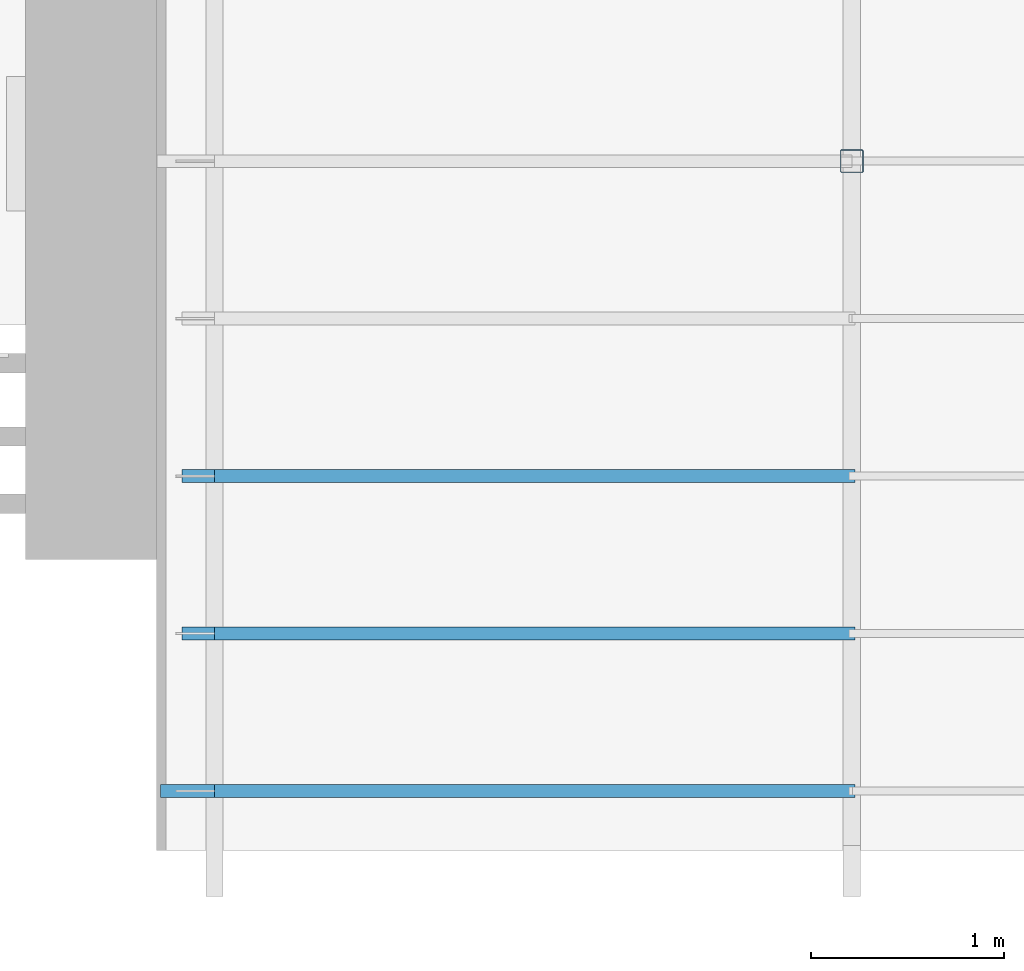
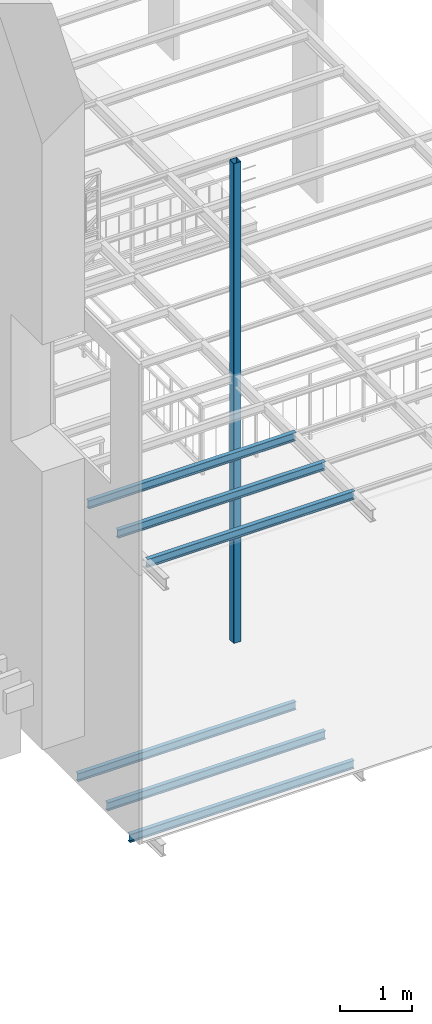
# One storey, part 1 of 33: 6 beams, 1 column.
"""IFC2X3 building model written with IfcOpenShell, lengths in metres."""

from ifc_helpers import new_model, entity, si_unit, converted_unit, derived_unit, direction, frame, frame_2d, origin, place, context, subcontext, project, spatial, polyline, circle_curve, parameter, trimmed, segment, composite_curve, outline, extrude, source, transform, mapped, material, type_object, type_shapes, element, save


model = new_model("IFC2X3")

# Units and contexts
model_context = context("Model", 3, precision=1e-05, world=origin(), true_north=direction((6.12303176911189e-17, 1.0)))
body_context = subcontext(model_context, "Body", "Model", "MODEL_VIEW")
ifc_project = project(units=[si_unit("LENGTHUNIT", "METRE"), si_unit("AREAUNIT", "SQUARE_METRE"), si_unit("VOLUMEUNIT", "CUBIC_METRE"), converted_unit("PLANEANGLEUNIT", "DEGREE", entity("IfcRatioMeasure", 0.0174532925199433), si_unit("PLANEANGLEUNIT", "RADIAN"), dimensions=[0, 0, 0, 0, 0, 0, 0]), si_unit("MASSUNIT", "GRAM", prefix="KILO"), derived_unit("MASSDENSITYUNIT", [(si_unit("MASSUNIT", "GRAM", prefix="KILO"), 1), (si_unit("LENGTHUNIT", "METRE"), -3)]), derived_unit("MOMENTOFINERTIAUNIT", [(si_unit("LENGTHUNIT", "METRE"), 4)]), si_unit("TIMEUNIT", "SECOND"), si_unit("FREQUENCYUNIT", "HERTZ"), si_unit("THERMODYNAMICTEMPERATUREUNIT", "DEGREE_CELSIUS"), derived_unit("THERMALTRANSMITTANCEUNIT", [(si_unit("MASSUNIT", "GRAM", prefix="KILO"), 1), (si_unit("THERMODYNAMICTEMPERATUREUNIT", "KELVIN"), -1), (si_unit("TIMEUNIT", "SECOND"), -3)]), derived_unit("VOLUMETRICFLOWRATEUNIT", [(si_unit("LENGTHUNIT", "METRE"), 3), (si_unit("TIMEUNIT", "SECOND"), -1)]), si_unit("ELECTRICCURRENTUNIT", "AMPERE"), si_unit("ELECTRICVOLTAGEUNIT", "VOLT"), si_unit("POWERUNIT", "WATT"), si_unit("FORCEUNIT", "NEWTON", prefix="KILO"), si_unit("ILLUMINANCEUNIT", "LUX"), si_unit("LUMINOUSFLUXUNIT", "LUMEN"), si_unit("LUMINOUSINTENSITYUNIT", "CANDELA"), derived_unit("USERDEFINED", [(si_unit("MASSUNIT", "GRAM", prefix="KILO"), -1), (si_unit("LENGTHUNIT", "METRE"), -2), (si_unit("TIMEUNIT", "SECOND"), 3), (si_unit("LUMINOUSFLUXUNIT", "LUMEN"), 1)]), derived_unit("LINEARVELOCITYUNIT", [(si_unit("LENGTHUNIT", "METRE"), 1), (si_unit("TIMEUNIT", "SECOND"), -1)]), si_unit("PRESSUREUNIT", "PASCAL"), derived_unit("USERDEFINED", [(si_unit("LENGTHUNIT", "METRE"), -2), (si_unit("MASSUNIT", "GRAM", prefix="KILO"), 1), (si_unit("TIMEUNIT", "SECOND"), -2)]), derived_unit("LINEARFORCEUNIT", [(si_unit("MASSUNIT", "GRAM", prefix="KILO"), 1), (si_unit("LENGTHUNIT", "METRE"), 1), (si_unit("TIMEUNIT", "SECOND"), -2), (si_unit("LENGTHUNIT", "METRE"), -1)]), derived_unit("PLANARFORCEUNIT", [(si_unit("MASSUNIT", "GRAM", prefix="KILO"), 1), (si_unit("LENGTHUNIT", "METRE"), 1), (si_unit("TIMEUNIT", "SECOND"), -2), (si_unit("LENGTHUNIT", "METRE"), -2)])], contexts=[model_context])

# Site, building, storey
site_placement = place(None, origin())
site = spatial("IfcSite", under=ifc_project, at=site_placement, Name="Superficie", CompositionType="ELEMENT")
building_placement = place(site_placement, origin())
building = spatial("IfcBuilding", under=site, at=building_placement, Name="Telegestiones", CompositionType="ELEMENT")
storey_placement = place(building_placement, frame((0.0, 0.0, 4.94)))
storey = spatial("IfcBuildingStorey", under=building, at=storey_placement, Name="Nivel 1_NPT", CompositionType="ELEMENT", Elevation=4.94)

# Column
ifc_material = material(Name="Metal - Acero - 345 MPa")
column_type = type_object("IfcColumnType", Name="SHS-Sección hueca cuadrada-Pilar:120 x 120SHS", PredefinedType="COLUMN", material=ifc_material)
shared_shape = source(origin(), body_context, "Body", "SweptSolid", [
    extrude(outline(composite_curve([segment(polyline([(-0.0520000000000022, -0.0599999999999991), (0.0520000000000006, -0.0599999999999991)]), True, "CONTINUOUS"), segment(trimmed(circle_curve(frame_2d((0.0520000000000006, -0.0520000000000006), x_axis=(-1.0, 0.0)), 0.00799999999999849), [parameter(90.0000000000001)], [parameter(180.0)], True, "PARAMETER"), True, "CONTINUOUS"), segment(polyline([(0.059999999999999, -0.0520000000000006), (0.059999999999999, 0.0520000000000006)]), True, "CONTINUOUS"), segment(trimmed(circle_curve(frame_2d((0.0519999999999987, 0.0520000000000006), x_axis=(-1.0, 0.0)), 0.00800000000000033), [parameter(180.0)], [parameter(270.0)], True, "PARAMETER"), True, "CONTINUOUS"), segment(polyline([(0.0519999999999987, 0.0600000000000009), (-0.0519999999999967, 0.0600000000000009)]), True, "CONTINUOUS"), segment(trimmed(circle_curve(frame_2d((-0.0519999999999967, 0.0519999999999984), x_axis=(-1.0, 0.0)), 0.0080000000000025), [parameter(270.0)], [parameter(359.999999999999)], True, "PARAMETER"), True, "CONTINUOUS"), segment(polyline([(-0.0599999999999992, 0.0519999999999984), (-0.0599999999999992, -0.0520000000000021)]), True, "CONTINUOUS"), segment(trimmed(circle_curve(frame_2d((-0.0520000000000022, -0.0520000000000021), x_axis=(-1.0, 0.0)), 0.00799999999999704), [parameter(360.0)], [parameter(89.9999999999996)], True, "PARAMETER"), True, "CONTINUOUS")], self_intersect=False), holes=[composite_curve([segment(trimmed(circle_curve(frame_2d((-0.0520000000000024, -0.0520000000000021), x_axis=(-1.0, 0.0)), 0.0039999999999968), [parameter(0.0)], [parameter(90.0000000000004)], True, "PARAMETER"), False, "CONTINUOUS"), segment(polyline([(-0.0559999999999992, -0.0520000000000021), (-0.0559999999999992, 0.0520000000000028)]), True, "CONTINUOUS"), segment(trimmed(circle_curve(frame_2d((-0.052000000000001, 0.0520000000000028), x_axis=(-1.0, 0.0)), 0.00399999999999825), [parameter(270.0)], [parameter(0.0)], True, "PARAMETER"), False, "CONTINUOUS"), segment(polyline([(-0.052000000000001, 0.056000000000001), (0.0519999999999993, 0.056000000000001)]), True, "CONTINUOUS"), segment(trimmed(circle_curve(frame_2d((0.0519999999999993, 0.0519999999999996), x_axis=(-1.0, 0.0)), 0.00400000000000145), [parameter(180.0)], [parameter(270.0)], True, "PARAMETER"), False, "CONTINUOUS"), segment(polyline([(0.0560000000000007, 0.0519999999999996), (0.0560000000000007, -0.0519999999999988)]), True, "CONTINUOUS"), segment(trimmed(circle_curve(frame_2d((0.0520000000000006, -0.0519999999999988), x_axis=(-1.0, 0.0)), 0.00400000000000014), [parameter(90.0000000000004)], [parameter(180.0)], True, "PARAMETER"), False, "CONTINUOUS"), segment(polyline([(0.0520000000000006, -0.0559999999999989), (-0.0520000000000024, -0.0559999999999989)]), True, "CONTINUOUS")], self_intersect=False)]), frame((0.0, 0.0, 4.94), z_axis=(0.0, 0.0, 1.0), x_axis=(-1.0, 0.0, 0.0)), (0.0, 0.0, 1.0), 8.13),
])
type_shapes(column_type, [shared_shape])
column_placement = place(storey_placement, frame((9.64481262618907, -2.22639277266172, -4.94)))
element("IfcColumn", 1, at=column_placement, inside=storey, type_object=column_type, material=ifc_material, Name="SHS-Sección hueca cuadrada-Pilar:120 x 120SHS", ObjectType="SHS-Sección hueca cuadrada-Pilar:120 x 120SHS", context=body_context, shape_type="MappedRepresentation", body=[
    mapped(shared_shape, transform((0.0, 0.0, 0.0), scale=1.0)),
])

# Beams
beam_type_1 = type_object("IfcBeamType", Name="IPN - Secciones en I con alas cónicas:IPN 140", PredefinedType="NOTDEFINED")
beam_1_placement = place(storey_placement, frame((6.16481262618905, -3.86189277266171, 0.0)))
element("IfcBeam", 2, at=beam_1_placement, inside=storey, type_object=beam_type_1, material=ifc_material, Name="IPN - Secciones en I con alas cónicas:IPN 140", ObjectType="IPN - Secciones en I con alas cónicas:IPN 140", context=body_context, shape_type="SweptSolid", body=[
    extrude(outline(composite_curve([segment(polyline([(0.0666671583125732, -0.0330000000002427), (0.0699999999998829, -0.0330000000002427)]), True, "CONTINUOUS"), segment(polyline([(0.0699999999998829, -0.0330000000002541), (0.0700000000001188, 0.0329999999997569)]), True, "CONTINUOUS"), segment(polyline([(0.0700000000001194, 0.032999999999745), (0.0666671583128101, 0.0329999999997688)]), True, "CONTINUOUS"), segment(trimmed(circle_curve(frame_2d((0.0666671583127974, 0.0295999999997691), x_axis=(0.0, 1.0)), 0.00339999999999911), [parameter(0.0)], [parameter(82.0303896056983)], True, "PARAMETER"), True, "CONTINUOUS"), segment(polyline([(0.0632999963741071, 0.030071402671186), (0.0601763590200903, 0.00775970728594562)]), True, "CONTINUOUS"), segment(trimmed(circle_curve(frame_2d((0.0545314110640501, 0.00854999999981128), x_axis=(0.990341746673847, -0.138647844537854)), 0.00569999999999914), [parameter(277.969610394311)], [parameter(0.0)], True, "PARAMETER"), False, "CONTINUOUS"), segment(polyline([(0.0545314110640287, 0.00284999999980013), (-0.0545314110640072, 0.00285000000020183)]), True, "CONTINUOUS"), segment(trimmed(circle_curve(frame_2d((-0.0545314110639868, 0.00855000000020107), x_axis=(0.0, -1.0)), 0.00569999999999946), [parameter(277.969610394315)], [parameter(0.0)], True, "PARAMETER"), False, "CONTINUOUS"), segment(polyline([(-0.0601763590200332, 0.00775970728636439), (-0.06329999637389, 0.0300714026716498)]), True, "CONTINUOUS"), segment(trimmed(circle_curve(frame_2d((-0.0666671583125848, 0.0296000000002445), x_axis=(0.990341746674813, 0.138647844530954)), 0.0034000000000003), [parameter(0.0)], [parameter(82.0303896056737)], True, "PARAMETER"), True, "CONTINUOUS"), segment(polyline([(-0.0666671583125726, 0.0330000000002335), (-0.0699999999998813, 0.0330000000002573)]), True, "CONTINUOUS"), segment(polyline([(-0.0699999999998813, 0.0330000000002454), (-0.0700000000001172, -0.0329999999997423)]), True, "CONTINUOUS"), segment(polyline([(-0.0700000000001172, -0.0329999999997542), (-0.0666671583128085, -0.0329999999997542)]), True, "CONTINUOUS"), segment(trimmed(circle_curve(frame_2d((-0.0666671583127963, -0.0295999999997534), x_axis=(0.0, -1.0)), 0.0034000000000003), [parameter(0.0)], [parameter(82.0303896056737)], True, "PARAMETER"), True, "CONTINUOUS"), segment(polyline([(-0.0632999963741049, -0.0300714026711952), (-0.0601763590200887, -0.00775970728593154)]), True, "CONTINUOUS"), segment(trimmed(circle_curve(frame_2d((-0.054531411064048, -0.00854999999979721), x_axis=(-0.990341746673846, 0.138647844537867)), 0.00569999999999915), [parameter(277.969610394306)], [parameter(0.0)], True, "PARAMETER"), False, "CONTINUOUS"), segment(polyline([(-0.0545314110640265, -0.00284999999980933), (0.0545314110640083, -0.00285000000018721)]), True, "CONTINUOUS"), segment(trimmed(circle_curve(frame_2d((0.0545314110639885, -0.00855000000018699), x_axis=(0.0, 1.0)), 0.00569999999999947), [parameter(277.969610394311)], [parameter(0.0)], True, "PARAMETER"), False, "CONTINUOUS"), segment(polyline([(0.0601763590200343, -0.00775970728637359), (0.0632999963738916, -0.0300714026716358)]), True, "CONTINUOUS"), segment(trimmed(circle_curve(frame_2d((0.0666671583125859, -0.0296000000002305), x_axis=(-0.990341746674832, -0.13864784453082)), 0.00339999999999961), [parameter(0.0)], [parameter(82.0303896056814)], True, "PARAMETER"), True, "CONTINUOUS")], self_intersect=False)), frame((0.0, 0.0, -0.100000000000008), z_axis=(1.0, 0.0, 0.0), x_axis=(0.0, 0.0, -1.0)), (0.0, 0.0, 1.0), 3.495),
])
beam_2_placement = place(storey_placement, frame((6.16481262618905, -4.6796427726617, 0.0)))
element("IfcBeam", 3, at=beam_2_placement, inside=storey, type_object=beam_type_1, material=ifc_material, Name="IPN - Secciones en I con alas cónicas:IPN 140", ObjectType="IPN - Secciones en I con alas cónicas:IPN 140", context=body_context, shape_type="SweptSolid", body=[
    extrude(outline(composite_curve([segment(polyline([(0.0666671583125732, -0.0330000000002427), (0.0699999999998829, -0.0330000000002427)]), True, "CONTINUOUS"), segment(polyline([(0.0699999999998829, -0.0330000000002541), (0.0700000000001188, 0.0329999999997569)]), True, "CONTINUOUS"), segment(polyline([(0.0700000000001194, 0.032999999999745), (0.0666671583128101, 0.0329999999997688)]), True, "CONTINUOUS"), segment(trimmed(circle_curve(frame_2d((0.0666671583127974, 0.0295999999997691), x_axis=(0.0, 1.0)), 0.00339999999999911), [parameter(0.0)], [parameter(82.0303896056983)], True, "PARAMETER"), True, "CONTINUOUS"), segment(polyline([(0.0632999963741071, 0.030071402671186), (0.0601763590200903, 0.00775970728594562)]), True, "CONTINUOUS"), segment(trimmed(circle_curve(frame_2d((0.0545314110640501, 0.00854999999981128), x_axis=(0.990341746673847, -0.138647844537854)), 0.00569999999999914), [parameter(277.969610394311)], [parameter(0.0)], True, "PARAMETER"), False, "CONTINUOUS"), segment(polyline([(0.0545314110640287, 0.00284999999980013), (-0.0545314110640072, 0.00285000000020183)]), True, "CONTINUOUS"), segment(trimmed(circle_curve(frame_2d((-0.0545314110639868, 0.00855000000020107), x_axis=(0.0, -1.0)), 0.00569999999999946), [parameter(277.969610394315)], [parameter(0.0)], True, "PARAMETER"), False, "CONTINUOUS"), segment(polyline([(-0.0601763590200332, 0.00775970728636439), (-0.06329999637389, 0.0300714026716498)]), True, "CONTINUOUS"), segment(trimmed(circle_curve(frame_2d((-0.0666671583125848, 0.0296000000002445), x_axis=(0.990341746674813, 0.138647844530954)), 0.0034000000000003), [parameter(0.0)], [parameter(82.0303896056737)], True, "PARAMETER"), True, "CONTINUOUS"), segment(polyline([(-0.0666671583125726, 0.0330000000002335), (-0.0699999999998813, 0.0330000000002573)]), True, "CONTINUOUS"), segment(polyline([(-0.0699999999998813, 0.0330000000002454), (-0.0700000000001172, -0.0329999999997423)]), True, "CONTINUOUS"), segment(polyline([(-0.0700000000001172, -0.0329999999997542), (-0.0666671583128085, -0.0329999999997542)]), True, "CONTINUOUS"), segment(trimmed(circle_curve(frame_2d((-0.0666671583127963, -0.0295999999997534), x_axis=(0.0, -1.0)), 0.0034000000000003), [parameter(0.0)], [parameter(82.0303896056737)], True, "PARAMETER"), True, "CONTINUOUS"), segment(polyline([(-0.0632999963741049, -0.0300714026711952), (-0.0601763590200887, -0.00775970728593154)]), True, "CONTINUOUS"), segment(trimmed(circle_curve(frame_2d((-0.054531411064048, -0.00854999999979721), x_axis=(-0.990341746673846, 0.138647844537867)), 0.00569999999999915), [parameter(277.969610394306)], [parameter(0.0)], True, "PARAMETER"), False, "CONTINUOUS"), segment(polyline([(-0.0545314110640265, -0.00284999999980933), (0.0545314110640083, -0.00285000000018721)]), True, "CONTINUOUS"), segment(trimmed(circle_curve(frame_2d((0.0545314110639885, -0.00855000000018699), x_axis=(0.0, 1.0)), 0.00569999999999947), [parameter(277.969610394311)], [parameter(0.0)], True, "PARAMETER"), False, "CONTINUOUS"), segment(polyline([(0.0601763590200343, -0.00775970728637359), (0.0632999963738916, -0.0300714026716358)]), True, "CONTINUOUS"), segment(trimmed(circle_curve(frame_2d((0.0666671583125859, -0.0296000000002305), x_axis=(-0.990341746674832, -0.13864784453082)), 0.00339999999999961), [parameter(0.0)], [parameter(82.0303896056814)], True, "PARAMETER"), True, "CONTINUOUS")], self_intersect=False)), frame((0.0, 0.0, -0.100000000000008), z_axis=(1.0, 0.0, 0.0), x_axis=(0.0, 0.0, -1.0)), (0.0, 0.0, 1.0), 3.495),
])
beam_3_placement = place(storey_placement, frame((6.33481262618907, -3.86189277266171, 4.56)))
element("IfcBeam", 4, at=beam_3_placement, inside=storey, type_object=beam_type_1, material=ifc_material, Name="IPN - Secciones en I con alas cónicas:IPN 140", ObjectType="IPN - Secciones en I con alas cónicas:IPN 140", context=body_context, shape_type="SweptSolid", body=[
    extrude(outline(composite_curve([segment(polyline([(0.066667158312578, -0.0330000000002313), (0.0699999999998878, -0.0330000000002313)]), True, "CONTINUOUS"), segment(polyline([(0.0699999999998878, -0.0330000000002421), (0.0700000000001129, 0.0329999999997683)]), True, "CONTINUOUS"), segment(polyline([(0.0700000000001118, 0.0329999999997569), (0.0666671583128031, 0.0329999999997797)]), True, "CONTINUOUS"), segment(trimmed(circle_curve(frame_2d((0.0666671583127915, 0.0295999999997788), x_axis=(0.0, 1.0)), 0.0034000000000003), [parameter(0.0)], [parameter(82.0303896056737)], True, "PARAMETER"), True, "CONTINUOUS"), segment(polyline([(0.0632999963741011, 0.0300714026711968), (0.0601763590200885, 0.0077597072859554)]), True, "CONTINUOUS"), segment(trimmed(circle_curve(frame_2d((0.0545314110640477, 0.00854999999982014), x_axis=(0.990341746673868, -0.138647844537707)), 0.00569999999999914), [parameter(277.969610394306)], [parameter(0.0)], True, "PARAMETER"), False, "CONTINUOUS"), segment(polyline([(0.0545314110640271, 0.00284999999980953), (-0.0545314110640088, 0.00285000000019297)]), True, "CONTINUOUS"), segment(trimmed(circle_curve(frame_2d((-0.0545314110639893, 0.00855000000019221), x_axis=(0.0, -1.0)), 0.00569999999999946), [parameter(277.969610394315)], [parameter(0.0)], True, "PARAMETER"), False, "CONTINUOUS"), segment(polyline([(-0.0601763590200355, 0.00775970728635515), (-0.0632999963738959, 0.0300714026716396)]), True, "CONTINUOUS"), segment(trimmed(circle_curve(frame_2d((-0.0666671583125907, 0.0296000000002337), x_axis=(0.990341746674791, 0.138647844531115)), 0.0034000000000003), [parameter(0.0)], [parameter(82.0303896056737)], True, "PARAMETER"), True, "CONTINUOUS"), segment(polyline([(-0.0666671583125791, 0.0330000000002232), (-0.0699999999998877, 0.0330000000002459)]), True, "CONTINUOUS"), segment(polyline([(-0.0699999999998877, 0.0330000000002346), (-0.0700000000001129, -0.0329999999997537)]), True, "CONTINUOUS"), segment(polyline([(-0.0700000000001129, -0.0329999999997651), (-0.0666671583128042, -0.0329999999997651)]), True, "CONTINUOUS"), segment(trimmed(circle_curve(frame_2d((-0.0666671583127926, -0.0295999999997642), x_axis=(0.0, -1.0)), 0.0034000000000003), [parameter(0.0)], [parameter(82.0303896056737)], True, "PARAMETER"), True, "CONTINUOUS"), segment(polyline([(-0.0632999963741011, -0.0300714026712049), (-0.0601763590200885, -0.00775970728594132)]), True, "CONTINUOUS"), segment(trimmed(circle_curve(frame_2d((-0.0545314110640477, -0.00854999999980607), x_axis=(-0.990341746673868, 0.138647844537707)), 0.00569999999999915), [parameter(277.969610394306)], [parameter(0.0)], True, "PARAMETER"), False, "CONTINUOUS"), segment(polyline([(-0.0545314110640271, -0.00284999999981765), (0.0545314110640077, -0.00285000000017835)]), True, "CONTINUOUS"), segment(trimmed(circle_curve(frame_2d((0.0545314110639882, -0.00855000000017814), x_axis=(0.0, 1.0)), 0.00569999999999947), [parameter(277.969610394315)], [parameter(0.0)], True, "PARAMETER"), False, "CONTINUOUS"), segment(polyline([(0.0601763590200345, -0.00775970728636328), (0.0632999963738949, -0.0300714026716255)]), True, "CONTINUOUS"), segment(trimmed(circle_curve(frame_2d((0.0666671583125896, -0.0296000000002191), x_axis=(-0.990341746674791, -0.138647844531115)), 0.0034000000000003), [parameter(0.0)], [parameter(82.0303896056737)], True, "PARAMETER"), True, "CONTINUOUS")], self_intersect=False)), frame((0.0, 0.0, -0.100000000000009), z_axis=(1.0, 0.0, 0.0), x_axis=(0.0, 0.0, -1.0)), (0.0, 0.0, 1.0), 3.325),
])
beam_4_placement = place(storey_placement, frame((6.33481262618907, -4.6796427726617, 4.56)))
element("IfcBeam", 5, at=beam_4_placement, inside=storey, type_object=beam_type_1, material=ifc_material, Name="IPN - Secciones en I con alas cónicas:IPN 140", ObjectType="IPN - Secciones en I con alas cónicas:IPN 140", context=body_context, shape_type="SweptSolid", body=[
    extrude(outline(composite_curve([segment(polyline([(0.066667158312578, -0.0330000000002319), (0.0699999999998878, -0.0330000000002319)]), True, "CONTINUOUS"), segment(polyline([(0.0699999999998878, -0.0330000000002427), (0.0700000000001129, 0.0329999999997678)]), True, "CONTINUOUS"), segment(polyline([(0.0700000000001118, 0.0329999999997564), (0.0666671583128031, 0.0329999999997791)]), True, "CONTINUOUS"), segment(trimmed(circle_curve(frame_2d((0.0666671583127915, 0.0295999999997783), x_axis=(0.0, 1.0)), 0.0034000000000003), [parameter(0.0)], [parameter(82.0303896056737)], True, "PARAMETER"), True, "CONTINUOUS"), segment(polyline([(0.0632999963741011, 0.0300714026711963), (0.0601763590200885, 0.00775970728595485)]), True, "CONTINUOUS"), segment(trimmed(circle_curve(frame_2d((0.0545314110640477, 0.0085499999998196), x_axis=(0.990341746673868, -0.138647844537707)), 0.00569999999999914), [parameter(277.969610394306)], [parameter(0.0)], True, "PARAMETER"), False, "CONTINUOUS"), segment(polyline([(0.0545314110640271, 0.00284999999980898), (-0.0545314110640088, 0.00285000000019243)]), True, "CONTINUOUS"), segment(trimmed(circle_curve(frame_2d((-0.0545314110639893, 0.00855000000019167), x_axis=(0.0, -1.0)), 0.00569999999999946), [parameter(277.969610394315)], [parameter(0.0)], True, "PARAMETER"), False, "CONTINUOUS"), segment(polyline([(-0.0601763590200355, 0.00775970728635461), (-0.0632999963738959, 0.030071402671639)]), True, "CONTINUOUS"), segment(trimmed(circle_curve(frame_2d((-0.0666671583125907, 0.0296000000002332), x_axis=(0.990341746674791, 0.138647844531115)), 0.0034000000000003), [parameter(0.0)], [parameter(82.0303896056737)], True, "PARAMETER"), True, "CONTINUOUS"), segment(polyline([(-0.0666671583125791, 0.0330000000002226), (-0.0699999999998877, 0.0330000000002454)]), True, "CONTINUOUS"), segment(polyline([(-0.0699999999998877, 0.033000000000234), (-0.0700000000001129, -0.0329999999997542)]), True, "CONTINUOUS"), segment(polyline([(-0.0700000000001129, -0.0329999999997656), (-0.0666671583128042, -0.0329999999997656)]), True, "CONTINUOUS"), segment(trimmed(circle_curve(frame_2d((-0.0666671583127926, -0.0295999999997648), x_axis=(0.0, -1.0)), 0.0034000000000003), [parameter(0.0)], [parameter(82.0303896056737)], True, "PARAMETER"), True, "CONTINUOUS"), segment(polyline([(-0.0632999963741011, -0.0300714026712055), (-0.0601763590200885, -0.00775970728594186)]), True, "CONTINUOUS"), segment(trimmed(circle_curve(frame_2d((-0.0545314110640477, -0.00854999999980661), x_axis=(-0.990341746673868, 0.138647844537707)), 0.00569999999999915), [parameter(277.969610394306)], [parameter(0.0)], True, "PARAMETER"), False, "CONTINUOUS"), segment(polyline([(-0.0545314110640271, -0.00284999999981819), (0.0545314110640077, -0.00285000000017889)]), True, "CONTINUOUS"), segment(trimmed(circle_curve(frame_2d((0.0545314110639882, -0.00855000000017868), x_axis=(0.0, 1.0)), 0.00569999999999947), [parameter(277.969610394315)], [parameter(0.0)], True, "PARAMETER"), False, "CONTINUOUS"), segment(polyline([(0.0601763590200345, -0.00775970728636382), (0.0632999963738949, -0.030071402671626)]), True, "CONTINUOUS"), segment(trimmed(circle_curve(frame_2d((0.0666671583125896, -0.0296000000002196), x_axis=(-0.990341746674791, -0.138647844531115)), 0.0034000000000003), [parameter(0.0)], [parameter(82.0303896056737)], True, "PARAMETER"), True, "CONTINUOUS")], self_intersect=False)), frame((0.0, 0.0, -0.100000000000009), z_axis=(1.0, 0.0, 0.0), x_axis=(0.0, 0.0, -1.0)), (0.0, 0.0, 1.0), 3.325),
])
beam_type_2 = type_object("IfcBeamType", Name="EST-VI-PNI-Acero:EST-VI-IPN 140", PredefinedType="NOTDEFINED")
beam_5_placement = place(storey_placement, frame((6.30181262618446, -5.4973927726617, 0.0)))
element("IfcBeam", 6, at=beam_5_placement, inside=storey, type_object=beam_type_2, material=ifc_material, Name="EST-VI-PNI-Acero:EST-VI-IPN 140", ObjectType="EST-VI-PNI-Acero:EST-VI-IPN 140", context=body_context, shape_type="SweptSolid", body=[
    extrude(outline(composite_curve([segment(polyline([(0.0666671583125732, -0.0330000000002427), (0.0699999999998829, -0.0330000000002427)]), True, "CONTINUOUS"), segment(polyline([(0.0699999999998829, -0.0330000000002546), (0.0700000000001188, 0.0329999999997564)]), True, "CONTINUOUS"), segment(polyline([(0.0700000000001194, 0.0329999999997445), (0.0666671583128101, 0.0329999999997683)]), True, "CONTINUOUS"), segment(trimmed(circle_curve(frame_2d((0.0666671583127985, 0.0295999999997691), x_axis=(0.0, 1.0)), 0.00340000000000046), [parameter(0.0)], [parameter(82.0303896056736)], True, "PARAMETER"), True, "CONTINUOUS"), segment(polyline([(0.0632999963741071, 0.030071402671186), (0.0601763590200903, 0.00775970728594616)]), True, "CONTINUOUS"), segment(trimmed(circle_curve(frame_2d((0.0545314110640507, 0.00854999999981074), x_axis=(0.990341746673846, -0.138647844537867)), 0.00569999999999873), [parameter(277.969610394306)], [parameter(0.0)], True, "PARAMETER"), False, "CONTINUOUS"), segment(polyline([(0.0545314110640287, 0.00284999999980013), (-0.0545314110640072, 0.00285000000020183)]), True, "CONTINUOUS"), segment(trimmed(circle_curve(frame_2d((-0.0545314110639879, 0.00855000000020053), x_axis=(0.0, -1.0)), 0.00569999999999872), [parameter(277.969610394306)], [parameter(0.0)], True, "PARAMETER"), False, "CONTINUOUS"), segment(polyline([(-0.0601763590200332, 0.00775970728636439), (-0.06329999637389, 0.0300714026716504)]), True, "CONTINUOUS"), segment(trimmed(circle_curve(frame_2d((-0.0666671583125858, 0.0296000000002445), x_axis=(0.990341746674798, 0.138647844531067)), 0.00340000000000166), [parameter(0.0)], [parameter(82.0303896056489)], True, "PARAMETER"), True, "CONTINUOUS"), segment(polyline([(-0.0666671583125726, 0.0330000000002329), (-0.0699999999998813, 0.0330000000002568)]), True, "CONTINUOUS"), segment(polyline([(-0.0699999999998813, 0.0330000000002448), (-0.0700000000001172, -0.0329999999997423)]), True, "CONTINUOUS"), segment(polyline([(-0.0700000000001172, -0.0329999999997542), (-0.0666671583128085, -0.0329999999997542)]), True, "CONTINUOUS"), segment(trimmed(circle_curve(frame_2d((-0.0666671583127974, -0.0295999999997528), x_axis=(0.0, -1.0)), 0.00340000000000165), [parameter(0.0)], [parameter(82.0303896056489)], True, "PARAMETER"), True, "CONTINUOUS"), segment(polyline([(-0.0632999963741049, -0.0300714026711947), (-0.0601763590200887, -0.007759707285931)]), True, "CONTINUOUS"), segment(trimmed(circle_curve(frame_2d((-0.054531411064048, -0.00854999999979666), x_axis=(-0.990341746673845, 0.138647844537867)), 0.00569999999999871), [parameter(277.969610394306)], [parameter(0.0)], True, "PARAMETER"), False, "CONTINUOUS"), segment(polyline([(-0.0545314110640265, -0.00284999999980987), (0.0545314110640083, -0.00285000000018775)]), True, "CONTINUOUS"), segment(trimmed(circle_curve(frame_2d((0.054531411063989, -0.00855000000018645), x_axis=(0.0, 1.0)), 0.0056999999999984), [parameter(277.969610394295)], [parameter(0.0)], True, "PARAMETER"), False, "CONTINUOUS"), segment(polyline([(0.0601763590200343, -0.00775970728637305), (0.0632999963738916, -0.0300714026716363)]), True, "CONTINUOUS"), segment(trimmed(circle_curve(frame_2d((0.0666671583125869, -0.0296000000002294), x_axis=(-0.990341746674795, -0.138647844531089)), 0.00340000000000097), [parameter(0.0)], [parameter(82.0303896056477)], True, "PARAMETER"), True, "CONTINUOUS")], self_intersect=False)), frame((-0.246999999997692, 0.0, -0.100000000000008), z_axis=(1.0, 0.0, 0.0), x_axis=(0.0, 0.0, -1.0)), (0.0, 0.0, 1.0), 3.593),
])
beam_6_placement = place(storey_placement, frame((6.33481262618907, -5.4973927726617, 4.56)))
element("IfcBeam", 7, at=beam_6_placement, inside=storey, type_object=beam_type_2, material=ifc_material, Name="EST-VI-PNI-Acero:EST-VI-IPN 140", ObjectType="EST-VI-PNI-Acero:EST-VI-IPN 140", context=body_context, shape_type="SweptSolid", body=[
    extrude(outline(composite_curve([segment(polyline([(0.0666671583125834, -0.033000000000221), (0.0699999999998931, -0.033000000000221)]), True, "CONTINUOUS"), segment(polyline([(0.0699999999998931, -0.0330000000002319), (0.0700000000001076, 0.0329999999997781)]), True, "CONTINUOUS"), segment(polyline([(0.0700000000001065, 0.0329999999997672), (0.0666671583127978, 0.0329999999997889)]), True, "CONTINUOUS"), segment(trimmed(circle_curve(frame_2d((0.0666671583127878, 0.0295999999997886), x_axis=(0.0, 1.0)), 0.00340000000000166), [parameter(0.0)], [parameter(82.0303896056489)], True, "PARAMETER"), True, "CONTINUOUS"), segment(polyline([(0.0632999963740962, 0.0300714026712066), (0.0601763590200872, 0.00775970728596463)]), True, "CONTINUOUS"), segment(trimmed(circle_curve(frame_2d((0.0545314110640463, 0.00854999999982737), x_axis=(0.990341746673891, -0.138647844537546)), 0.00569999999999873), [parameter(277.969610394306)], [parameter(0.0)], True, "PARAMETER"), False, "CONTINUOUS"), segment(polyline([(0.0545314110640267, 0.00284999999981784), (-0.0545314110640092, 0.00285000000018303)]), True, "CONTINUOUS"), segment(trimmed(circle_curve(frame_2d((-0.0545314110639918, 0.00855000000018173), x_axis=(0.0, -1.0)), 0.00569999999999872), [parameter(277.969610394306)], [parameter(0.0)], True, "PARAMETER"), False, "CONTINUOUS"), segment(polyline([(-0.0601763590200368, 0.00775970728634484), (-0.0632999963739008, 0.0300714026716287)]), True, "CONTINUOUS"), segment(trimmed(circle_curve(frame_2d((-0.0666671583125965, 0.0296000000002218), x_axis=(0.990341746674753, 0.138647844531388)), 0.00340000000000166), [parameter(0.0)], [parameter(82.0303896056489)], True, "PARAMETER"), True, "CONTINUOUS"), segment(polyline([(-0.0666671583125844, 0.0330000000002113), (-0.0699999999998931, 0.0330000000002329)]), True, "CONTINUOUS"), segment(polyline([(-0.0699999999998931, 0.0330000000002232), (-0.0700000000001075, -0.0329999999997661)]), True, "CONTINUOUS"), segment(polyline([(-0.0700000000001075, -0.032999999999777), (-0.0666671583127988, -0.032999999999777)]), True, "CONTINUOUS"), segment(trimmed(circle_curve(frame_2d((-0.0666671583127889, -0.0295999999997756), x_axis=(0.0, -1.0)), 0.00340000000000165), [parameter(0.0)], [parameter(82.0303896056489)], True, "PARAMETER"), True, "CONTINUOUS"), segment(polyline([(-0.0632999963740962, -0.0300714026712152), (-0.0601763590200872, -0.00775970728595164)]), True, "CONTINUOUS"), segment(trimmed(circle_curve(frame_2d((-0.0545314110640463, -0.00854999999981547), x_axis=(-0.990341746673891, 0.138647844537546)), 0.00569999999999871), [parameter(277.969610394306)], [parameter(0.0)], True, "PARAMETER"), False, "CONTINUOUS"), segment(polyline([(-0.0545314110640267, -0.00284999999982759), (0.0545314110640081, -0.00285000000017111)]), True, "CONTINUOUS"), segment(trimmed(circle_curve(frame_2d((0.0545314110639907, -0.00855000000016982), x_axis=(0.0, 1.0)), 0.0056999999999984), [parameter(277.969610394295)], [parameter(0.0)], True, "PARAMETER"), False, "CONTINUOUS"), segment(polyline([(0.0601763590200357, -0.0077597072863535), (0.0632999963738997, -0.0300714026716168)]), True, "CONTINUOUS"), segment(trimmed(circle_curve(frame_2d((0.0666671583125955, -0.0296000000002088), x_axis=(-0.990341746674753, -0.138647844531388)), 0.00340000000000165), [parameter(0.0)], [parameter(82.0303896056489)], True, "PARAMETER"), True, "CONTINUOUS")], self_intersect=False)), frame((0.0, 0.0, -0.100000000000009), z_axis=(1.0, 0.0, 0.0), x_axis=(0.0, 0.0, -1.0)), (0.0, 0.0, 1.0), 3.325),
])

save(model, "model.ifc")
